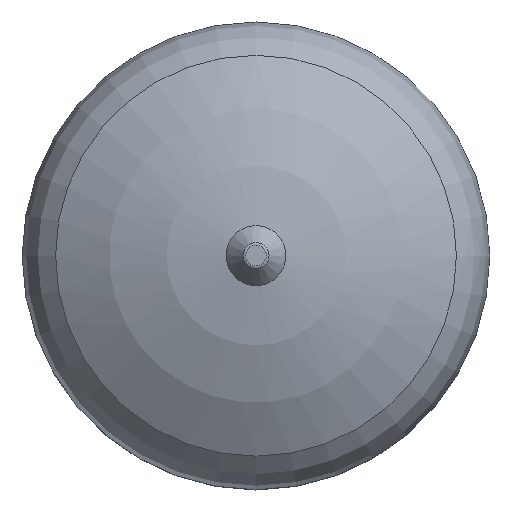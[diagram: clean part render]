
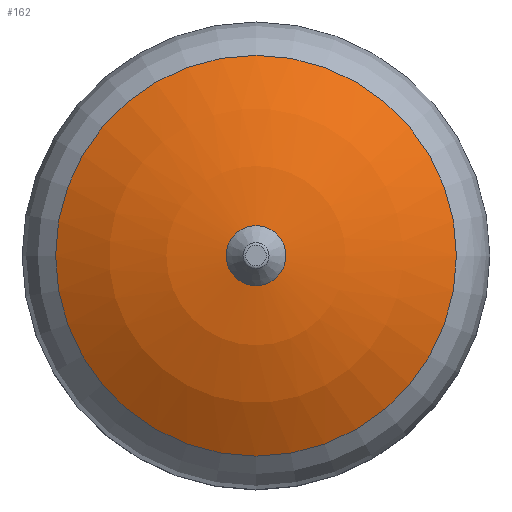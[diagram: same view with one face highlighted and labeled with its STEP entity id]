
A CAD part, top view. The second image highlights one B-rep face of the part: STEP entity #162.
In plain terms, the highlighted spherical face has radius 312 mm.
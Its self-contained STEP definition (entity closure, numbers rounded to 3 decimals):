
#162=ADVANCED_FACE('',(#803,#805),#807,.T.);
#803=FACE_BOUND('',#804,.T.);
#804=EDGE_LOOP('',(#1199,#1200));
#805=FACE_BOUND('',#806,.T.);
#806=EDGE_LOOP('',(#1201,#1202));
#807=SPHERICAL_SURFACE('',#808,312.);
#808=AXIS2_PLACEMENT_3D('',#809,#810,#811);
#809=CARTESIAN_POINT('',(0.,0.,66.7));
#810=DIRECTION('',(0.,0.,1.));
#811=DIRECTION('',(1.,0.,0.));
#1199=ORIENTED_EDGE('',*,*,#1394,.T.);
#1200=ORIENTED_EDGE('',*,*,#1393,.T.);
#1201=ORIENTED_EDGE('',*,*,#1395,.F.);
#1202=ORIENTED_EDGE('',*,*,#1396,.F.);
#1393=EDGE_CURVE('',#1725,#1726,#1727,.T.);
#1394=EDGE_CURVE('',#1726,#1725,#1728,.T.);
#1395=EDGE_CURVE('',#1729,#1730,#1731,.T.);
#1396=EDGE_CURVE('',#1730,#1729,#1732,.T.);
#1725=VERTEX_POINT('',#2521);
#1726=VERTEX_POINT('',#2522);
#1727=CIRCLE('',#2523,167.143);
#1728=CIRCLE('',#2527,167.143);
#1729=VERTEX_POINT('',#2531);
#1730=VERTEX_POINT('',#2532);
#1731=CIRCLE('',#2533,25.003);
#1732=CIRCLE('',#2537,25.003);
#2521=CARTESIAN_POINT('',(-167.143,0.,330.153));
#2522=CARTESIAN_POINT('',(167.143,0.,330.153));
#2523=AXIS2_PLACEMENT_3D('',#2524,#2525,#2526);
#2524=CARTESIAN_POINT('',(0.,0.,330.153));
#2525=DIRECTION('',(0.,0.,1.));
#2526=DIRECTION('',(-1.,0.,0.));
#2527=AXIS2_PLACEMENT_3D('',#2528,#2529,#2530);
#2528=CARTESIAN_POINT('',(0.,0.,330.153));
#2529=DIRECTION('',(0.,0.,1.));
#2530=DIRECTION('',(1.,0.,0.));
#2531=CARTESIAN_POINT('',(-25.003,0.,377.697));
#2532=CARTESIAN_POINT('',(25.003,0.,377.697));
#2533=AXIS2_PLACEMENT_3D('',#2534,#2535,#2536);
#2534=CARTESIAN_POINT('',(0.,0.,377.697));
#2535=DIRECTION('',(0.,0.,1.));
#2536=DIRECTION('',(-1.,0.,0.));
#2537=AXIS2_PLACEMENT_3D('',#2538,#2539,#2540);
#2538=CARTESIAN_POINT('',(0.,0.,377.697));
#2539=DIRECTION('',(0.,0.,1.));
#2540=DIRECTION('',(1.,0.,0.));
